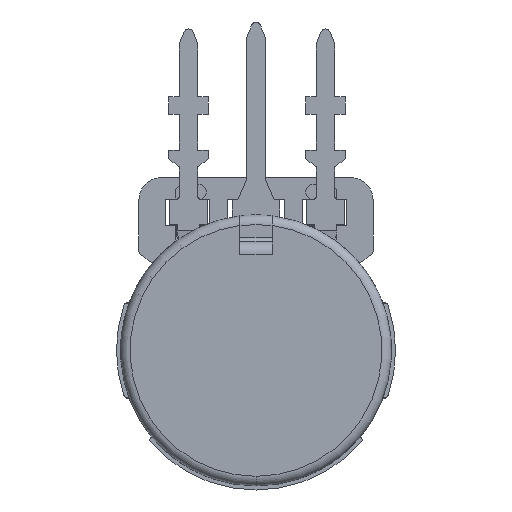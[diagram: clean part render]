
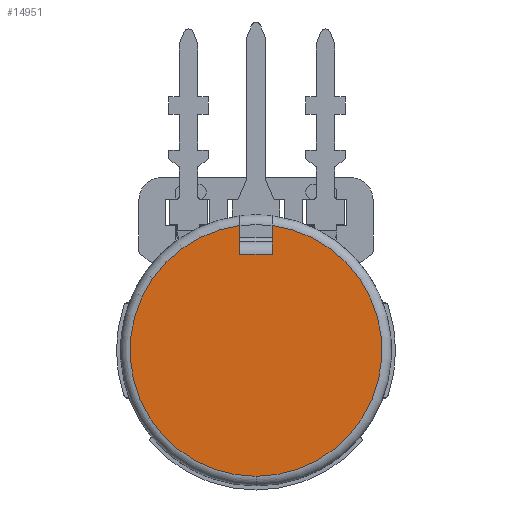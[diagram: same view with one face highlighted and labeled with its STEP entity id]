
A CAD part, front view. The second image highlights one B-rep face of the part: STEP entity #14951.
In plain terms, the highlighted planar face has unit normal (0, -1, 0).
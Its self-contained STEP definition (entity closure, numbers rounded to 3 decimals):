
#110 = ORIENTED_EDGE ( 'NONE', *, *, #12832, .T. ) ;
#404 = FACE_OUTER_BOUND ( 'NONE', #14213, .T. ) ;
#2210 = CARTESIAN_POINT ( 'NONE',  ( 1.397, 0., 8.382 ) ) ;
#2350 = PLANE ( 'NONE',  #7073 ) ;
#2430 = DIRECTION ( 'NONE',  ( 0., 0., -1. ) ) ;
#3001 = CARTESIAN_POINT ( 'NONE',  ( -1.397, 0., 10.884 ) ) ;
#3842 = VECTOR ( 'NONE', #4710, 1000. ) ;
#3883 = CARTESIAN_POINT ( 'NONE',  ( -5.207, 0., 0. ) ) ;
#4117 = VERTEX_POINT ( 'NONE', #2210 ) ;
#4330 = CIRCLE ( 'NONE', #8918, 10.973 ) ;
#4465 = VERTEX_POINT ( 'NONE', #12366 ) ;
#4612 = LINE ( 'NONE', #20320, #3842 ) ;
#4710 = DIRECTION ( 'NONE',  ( 0., 0., 1. ) ) ;
#5022 = DIRECTION ( 'NONE',  ( 0., 0., -1. ) ) ;
#5050 = CIRCLE ( 'NONE', #18181, 10.973 ) ;
#5797 = VECTOR ( 'NONE', #19327, 1000. ) ;
#6807 = CARTESIAN_POINT ( 'NONE',  ( -1.397, 0., 8.382 ) ) ;
#6966 = ORIENTED_EDGE ( 'NONE', *, *, #16587, .T. ) ;
#7073 = AXIS2_PLACEMENT_3D ( 'NONE', #3883, #11587, #5022 ) ;
#7192 = VERTEX_POINT ( 'NONE', #3001 ) ;
#8724 = LINE ( 'NONE', #17958, #19651 ) ;
#8918 = AXIS2_PLACEMENT_3D ( 'NONE', #19886, #11875, #2430 ) ;
#10421 = ORIENTED_EDGE ( 'NONE', *, *, #13133, .T. ) ;
#11587 = DIRECTION ( 'NONE',  ( 0., -1., 0. ) ) ;
#11875 = DIRECTION ( 'NONE',  ( 0., -1., 0. ) ) ;
#12366 = CARTESIAN_POINT ( 'NONE',  ( 1.397, 0., 10.884 ) ) ;
#12465 = CARTESIAN_POINT ( 'NONE',  ( 0., 0., 0. ) ) ;
#12832 = EDGE_CURVE ( 'NONE', #12957, #4465, #5050, .T. ) ;
#12957 = VERTEX_POINT ( 'NONE', #15933 ) ;
#13133 = EDGE_CURVE ( 'NONE', #4117, #19812, #16138, .T. ) ;
#13828 = EDGE_CURVE ( 'NONE', #4117, #4465, #4612, .T. ) ;
#14213 = EDGE_LOOP ( 'NONE', ( #16672, #10421, #20167, #6966, #110 ) ) ;
#14765 = DIRECTION ( 'NONE',  ( 0., 0., -1. ) ) ;
#14951 = ADVANCED_FACE ( 'NONE', ( #404 ), #2350, .T. ) ;
#15637 = DIRECTION ( 'NONE',  ( 0., -1., 0. ) ) ;
#15833 = DIRECTION ( 'NONE',  ( 0., 0., -1. ) ) ;
#15933 = CARTESIAN_POINT ( 'NONE',  ( 0., 0., -10.973 ) ) ;
#15994 = CARTESIAN_POINT ( 'NONE',  ( -1.397, 0., 8.382 ) ) ;
#16138 = LINE ( 'NONE', #6807, #5797 ) ;
#16587 = EDGE_CURVE ( 'NONE', #7192, #12957, #4330, .T. ) ;
#16672 = ORIENTED_EDGE ( 'NONE', *, *, #13828, .F. ) ;
#17958 = CARTESIAN_POINT ( 'NONE',  ( -1.397, 0., 12.522 ) ) ;
#18181 = AXIS2_PLACEMENT_3D ( 'NONE', #12465, #15637, #15833 ) ;
#18800 = EDGE_CURVE ( 'NONE', #7192, #19812, #8724, .T. ) ;
#19327 = DIRECTION ( 'NONE',  ( -1., 0., 0. ) ) ;
#19651 = VECTOR ( 'NONE', #14765, 1000. ) ;
#19812 = VERTEX_POINT ( 'NONE', #15994 ) ;
#19886 = CARTESIAN_POINT ( 'NONE',  ( 0., 0., 0. ) ) ;
#20167 = ORIENTED_EDGE ( 'NONE', *, *, #18800, .F. ) ;
#20320 = CARTESIAN_POINT ( 'NONE',  ( 1.397, 0., 12.522 ) ) ;
